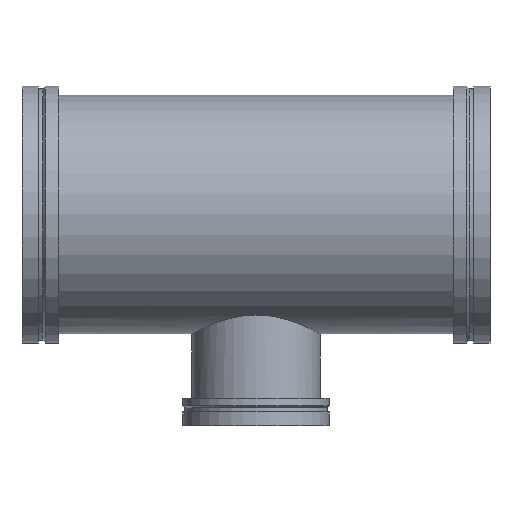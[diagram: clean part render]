
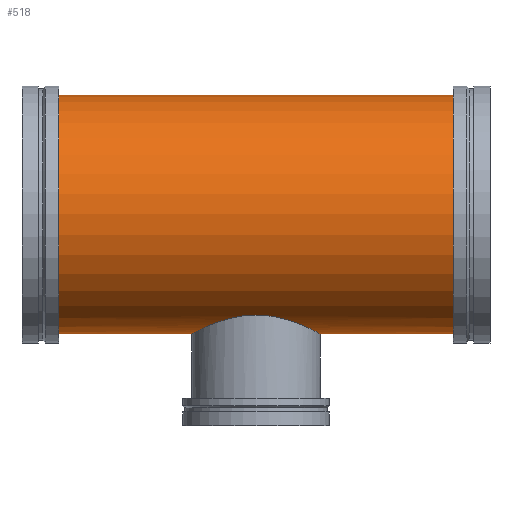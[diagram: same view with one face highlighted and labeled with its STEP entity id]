
A CAD part, top view. The second image highlights one B-rep face of the part: STEP entity #518.
In plain terms, the highlighted cylindrical face has radius 330.2 mm (diameter 660.4 mm), a full revolution.
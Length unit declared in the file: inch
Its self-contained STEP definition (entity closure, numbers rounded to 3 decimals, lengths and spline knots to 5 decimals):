
#51=FACE_BOUND('',#106,.T.);
#77=FACE_OUTER_BOUND('',#105,.T.);
#105=EDGE_LOOP('',(#381,#382,#383,#384,#385,#386));
#106=EDGE_LOOP('',(#387,#388));
#145=CIRCLE('',#580,13.);
#146=CIRCLE('',#581,13.);
#147=CIRCLE('',#582,13.);
#148=CIRCLE('',#583,13.);
#183=LINE('',#1056,#199);
#199=VECTOR('',#704,13.);
#211=B_SPLINE_CURVE_WITH_KNOTS('',3,(#926,#927,#928,#929,#930,#931,#932,
#933,#934,#935,#936,#937,#938,#939,#940,#941,#942,#943,#944,#945,#946,#947,
#948,#949,#950,#951,#952,#953,#954,#955,#956,#957,#958,#959,#960,#961,#962,
#963,#964,#965,#966,#967,#968,#969,#970,#971,#972,#973,#974,#975,#976,#977,
#978,#979,#980,#981,#982,#983,#984,#985,#986,#987),.UNSPECIFIED.,.F.,.F.,
(4,2,2,2,2,2,2,2,2,2,2,2,2,2,2,2,2,2,2,2,2,2,2,2,2,2,2,2,2,2,4),(0.,1.71839,
3.43679,6.87358,10.31037,13.74716,17.17075,
20.59433,24.01792,25.72972,27.44151,29.15331,
30.8651,34.28869,37.71228,41.13587,44.57266,
48.00945,51.44624,53.16463,54.88302,56.60142,
58.31981,61.7566,65.19339,68.63018,72.05377,
75.47736,78.90095,80.61274,82.32454),
 .UNSPECIFIED.);
#212=B_SPLINE_CURVE_WITH_KNOTS('',3,(#988,#989,#990,#991,#992,#993,#994,
#995,#996,#997,#998,#999,#1000,#1001,#1002,#1003,#1004,#1005,#1006,#1007,
#1008,#1009),.UNSPECIFIED.,.F.,.F.,(4,2,2,2,2,2,2,2,2,2,4),(82.32454,
84.03633,85.74813,89.17171,92.5953,96.01889,
99.45568,102.89247,106.32926,108.04765,109.76605),
 .UNSPECIFIED.);
#217=VERTEX_POINT('',#924);
#218=VERTEX_POINT('',#925);
#233=VERTEX_POINT('',#1051);
#234=VERTEX_POINT('',#1052);
#235=VERTEX_POINT('',#1055);
#236=VERTEX_POINT('',#1057);
#270=EDGE_CURVE('',#217,#218,#211,.T.);
#271=EDGE_CURVE('',#218,#217,#212,.T.);
#291=EDGE_CURVE('',#233,#234,#145,.T.);
#292=EDGE_CURVE('',#234,#233,#146,.T.);
#293=EDGE_CURVE('',#234,#235,#183,.T.);
#294=EDGE_CURVE('',#235,#236,#147,.T.);
#295=EDGE_CURVE('',#236,#235,#148,.T.);
#381=ORIENTED_EDGE('',*,*,#291,.F.);
#382=ORIENTED_EDGE('',*,*,#292,.F.);
#383=ORIENTED_EDGE('',*,*,#293,.T.);
#384=ORIENTED_EDGE('',*,*,#294,.T.);
#385=ORIENTED_EDGE('',*,*,#295,.T.);
#386=ORIENTED_EDGE('',*,*,#293,.F.);
#387=ORIENTED_EDGE('',*,*,#270,.T.);
#388=ORIENTED_EDGE('',*,*,#271,.T.);
#474=CYLINDRICAL_SURFACE('',#579,13.);
#518=ADVANCED_FACE('',(#77,#51),#474,.T.);
#579=AXIS2_PLACEMENT_3D('',#1050,#698,#699);
#580=AXIS2_PLACEMENT_3D('',#1053,#700,#701);
#581=AXIS2_PLACEMENT_3D('',#1054,#702,#703);
#582=AXIS2_PLACEMENT_3D('',#1058,#705,#706);
#583=AXIS2_PLACEMENT_3D('',#1059,#707,#708);
#698=DIRECTION('center_axis',(1.,0.,0.));
#699=DIRECTION('ref_axis',(0.,-1.,0.));
#700=DIRECTION('center_axis',(1.,0.,0.));
#701=DIRECTION('ref_axis',(0.,0.,1.));
#702=DIRECTION('center_axis',(1.,0.,0.));
#703=DIRECTION('ref_axis',(0.,0.,1.));
#704=DIRECTION('',(-1.,0.,0.));
#705=DIRECTION('center_axis',(1.,0.,0.));
#706=DIRECTION('ref_axis',(0.,0.,1.));
#707=DIRECTION('center_axis',(1.,0.,0.));
#708=DIRECTION('ref_axis',(0.,0.,1.));
#924=CARTESIAN_POINT('',(0.,-10.95445,7.));
#925=CARTESIAN_POINT('',(-7.,-13.,0.));
#926=CARTESIAN_POINT('Ctrl Pts',(0.,-10.95445,
7.));
#927=CARTESIAN_POINT('Ctrl Pts',(0.22551,-10.95445,7.));
#928=CARTESIAN_POINT('Ctrl Pts',(0.45386,-10.96147,6.98906));
#929=CARTESIAN_POINT('Ctrl Pts',(0.9118,-10.98996,6.94417));
#930=CARTESIAN_POINT('Ctrl Pts',(1.1414,-11.01143,6.91023));
#931=CARTESIAN_POINT('Ctrl Pts',(1.82567,-11.09631,6.77372));
#932=CARTESIAN_POINT('Ctrl Pts',(2.2758,-11.18059,6.63605));
#933=CARTESIAN_POINT('Ctrl Pts',(3.13405,-11.38634,6.27648));
#934=CARTESIAN_POINT('Ctrl Pts',(3.54304,-11.50769,6.05429));
#935=CARTESIAN_POINT('Ctrl Pts',(4.29777,-11.762,5.54406));
#936=CARTESIAN_POINT('Ctrl Pts',(4.64354,-11.89473,5.25595));
#937=CARTESIAN_POINT('Ctrl Pts',(5.25478,-12.14642,4.64472));
#938=CARTESIAN_POINT('Ctrl Pts',(5.54271,-12.2748,4.29954));
#939=CARTESIAN_POINT('Ctrl Pts',(6.05339,-12.5137,3.54459));
#940=CARTESIAN_POINT('Ctrl Pts',(6.27618,-12.62404,3.13479));
#941=CARTESIAN_POINT('Ctrl Pts',(6.63646,-12.80697,2.27481));
#942=CARTESIAN_POINT('Ctrl Pts',(6.77424,-12.87961,1.82379));
#943=CARTESIAN_POINT('Ctrl Pts',(6.91059,-12.95202,1.13922));
#944=CARTESIAN_POINT('Ctrl Pts',(6.94444,-12.97015,0.90971));
#945=CARTESIAN_POINT('Ctrl Pts',(6.98914,-12.99414,0.45242));
#946=CARTESIAN_POINT('Ctrl Pts',(7.,-13.,0.22464));
#947=CARTESIAN_POINT('Ctrl Pts',(7.,-13.,-0.22464));
#948=CARTESIAN_POINT('Ctrl Pts',(6.98914,-12.99414,-0.45242));
#949=CARTESIAN_POINT('Ctrl Pts',(6.94444,-12.97015,-0.90971));
#950=CARTESIAN_POINT('Ctrl Pts',(6.91059,-12.95202,-1.13922));
#951=CARTESIAN_POINT('Ctrl Pts',(6.77424,-12.87961,-1.82379));
#952=CARTESIAN_POINT('Ctrl Pts',(6.63646,-12.80697,-2.27481));
#953=CARTESIAN_POINT('Ctrl Pts',(6.27618,-12.62404,-3.13479));
#954=CARTESIAN_POINT('Ctrl Pts',(6.05339,-12.5137,-3.54459));
#955=CARTESIAN_POINT('Ctrl Pts',(5.54271,-12.2748,-4.29954));
#956=CARTESIAN_POINT('Ctrl Pts',(5.25478,-12.14642,-4.64472));
#957=CARTESIAN_POINT('Ctrl Pts',(4.64354,-11.89473,-5.25595));
#958=CARTESIAN_POINT('Ctrl Pts',(4.29777,-11.762,-5.54406));
#959=CARTESIAN_POINT('Ctrl Pts',(3.54304,-11.50769,-6.05429));
#960=CARTESIAN_POINT('Ctrl Pts',(3.13405,-11.38634,-6.27648));
#961=CARTESIAN_POINT('Ctrl Pts',(2.2758,-11.18059,-6.63605));
#962=CARTESIAN_POINT('Ctrl Pts',(1.82567,-11.09631,-6.77372));
#963=CARTESIAN_POINT('Ctrl Pts',(1.1414,-11.01143,-6.91023));
#964=CARTESIAN_POINT('Ctrl Pts',(0.9118,-10.98996,-6.94417));
#965=CARTESIAN_POINT('Ctrl Pts',(0.45386,-10.96147,-6.98906));
#966=CARTESIAN_POINT('Ctrl Pts',(0.22551,-10.95445,-7.));
#967=CARTESIAN_POINT('Ctrl Pts',(-0.22551,-10.95445,-7.));
#968=CARTESIAN_POINT('Ctrl Pts',(-0.45386,-10.96147,-6.98906));
#969=CARTESIAN_POINT('Ctrl Pts',(-0.9118,-10.98996,-6.94417));
#970=CARTESIAN_POINT('Ctrl Pts',(-1.1414,-11.01143,-6.91023));
#971=CARTESIAN_POINT('Ctrl Pts',(-1.82567,-11.09631,-6.77372));
#972=CARTESIAN_POINT('Ctrl Pts',(-2.2758,-11.18059,-6.63605));
#973=CARTESIAN_POINT('Ctrl Pts',(-3.13405,-11.38634,-6.27648));
#974=CARTESIAN_POINT('Ctrl Pts',(-3.54304,-11.50769,-6.05429));
#975=CARTESIAN_POINT('Ctrl Pts',(-4.29777,-11.762,-5.54406));
#976=CARTESIAN_POINT('Ctrl Pts',(-4.64354,-11.89473,-5.25595));
#977=CARTESIAN_POINT('Ctrl Pts',(-5.25478,-12.14642,-4.64472));
#978=CARTESIAN_POINT('Ctrl Pts',(-5.54271,-12.2748,-4.29954));
#979=CARTESIAN_POINT('Ctrl Pts',(-6.05339,-12.5137,-3.54459));
#980=CARTESIAN_POINT('Ctrl Pts',(-6.27618,-12.62404,-3.13479));
#981=CARTESIAN_POINT('Ctrl Pts',(-6.63646,-12.80697,-2.27481));
#982=CARTESIAN_POINT('Ctrl Pts',(-6.77424,-12.87961,-1.82379));
#983=CARTESIAN_POINT('Ctrl Pts',(-6.91059,-12.95202,-1.13922));
#984=CARTESIAN_POINT('Ctrl Pts',(-6.94444,-12.97015,-0.90971));
#985=CARTESIAN_POINT('Ctrl Pts',(-6.98914,-12.99414,-0.45242));
#986=CARTESIAN_POINT('Ctrl Pts',(-7.,-13.,-0.22464));
#987=CARTESIAN_POINT('Ctrl Pts',(-7.,-13.,0.));
#988=CARTESIAN_POINT('Ctrl Pts',(-7.,-13.,0.));
#989=CARTESIAN_POINT('Ctrl Pts',(-7.,-13.,0.22464));
#990=CARTESIAN_POINT('Ctrl Pts',(-6.98914,-12.99414,0.45242));
#991=CARTESIAN_POINT('Ctrl Pts',(-6.94444,-12.97015,0.90971));
#992=CARTESIAN_POINT('Ctrl Pts',(-6.91059,-12.95202,1.13922));
#993=CARTESIAN_POINT('Ctrl Pts',(-6.77424,-12.87961,1.82379));
#994=CARTESIAN_POINT('Ctrl Pts',(-6.63646,-12.80697,2.27481));
#995=CARTESIAN_POINT('Ctrl Pts',(-6.27618,-12.62404,3.13479));
#996=CARTESIAN_POINT('Ctrl Pts',(-6.05339,-12.5137,3.54459));
#997=CARTESIAN_POINT('Ctrl Pts',(-5.54271,-12.2748,4.29954));
#998=CARTESIAN_POINT('Ctrl Pts',(-5.25478,-12.14642,4.64472));
#999=CARTESIAN_POINT('Ctrl Pts',(-4.64354,-11.89473,5.25595));
#1000=CARTESIAN_POINT('Ctrl Pts',(-4.29777,-11.762,5.54406));
#1001=CARTESIAN_POINT('Ctrl Pts',(-3.54304,-11.50769,6.05429));
#1002=CARTESIAN_POINT('Ctrl Pts',(-3.13405,-11.38634,6.27648));
#1003=CARTESIAN_POINT('Ctrl Pts',(-2.2758,-11.18059,6.63605));
#1004=CARTESIAN_POINT('Ctrl Pts',(-1.82567,-11.09631,6.77372));
#1005=CARTESIAN_POINT('Ctrl Pts',(-1.1414,-11.01143,6.91023));
#1006=CARTESIAN_POINT('Ctrl Pts',(-0.9118,-10.98996,
6.94417));
#1007=CARTESIAN_POINT('Ctrl Pts',(-0.45386,-10.96147,6.98906));
#1008=CARTESIAN_POINT('Ctrl Pts',(-0.22551,-10.95445,
7.));
#1009=CARTESIAN_POINT('Ctrl Pts',(0.,-10.95445,
7.));
#1050=CARTESIAN_POINT('Origin',(10.75,0.,0.));
#1051=CARTESIAN_POINT('',(21.5,-13.,0.));
#1052=CARTESIAN_POINT('',(21.5,13.,0.));
#1053=CARTESIAN_POINT('Origin',(21.5,0.,0.));
#1054=CARTESIAN_POINT('Origin',(21.5,0.,0.));
#1055=CARTESIAN_POINT('',(-21.5,13.,0.));
#1056=CARTESIAN_POINT('',(10.75,13.,0.));
#1057=CARTESIAN_POINT('',(-21.5,-13.,0.));
#1058=CARTESIAN_POINT('Origin',(-21.5,0.,0.));
#1059=CARTESIAN_POINT('Origin',(-21.5,0.,0.));
